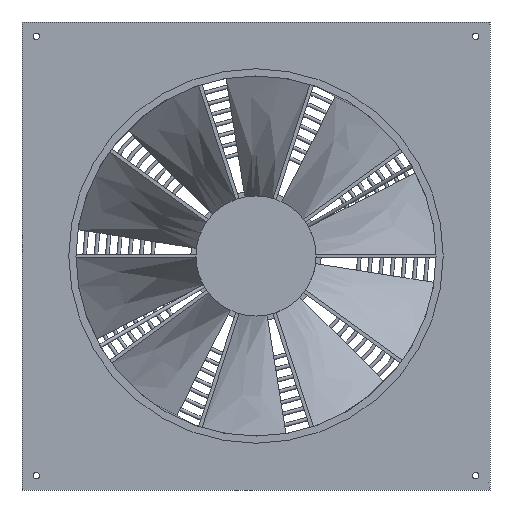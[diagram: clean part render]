
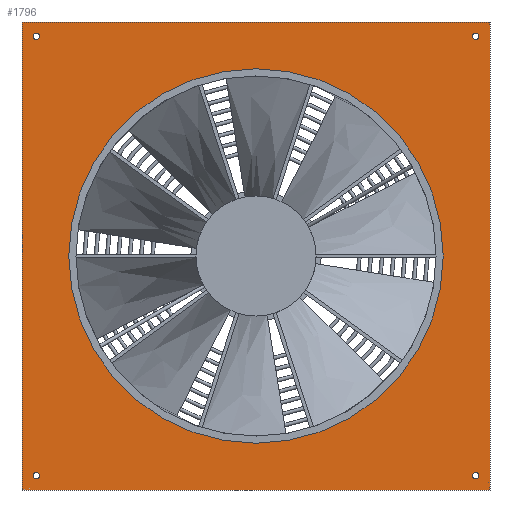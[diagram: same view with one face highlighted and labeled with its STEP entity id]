
A CAD part, front view. The second image highlights one B-rep face of the part: STEP entity #1796.
In plain terms, the highlighted planar face has unit normal (0, -1, 0).
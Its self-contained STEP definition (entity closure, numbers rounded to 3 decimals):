
#130=LINE('',#4186,#218);
#132=LINE('',#4193,#220);
#134=LINE('',#4199,#222);
#135=LINE('',#4201,#223);
#218=VECTOR('',#2268,10.);
#220=VECTOR('',#2276,10.);
#222=VECTOR('',#2282,10.);
#223=VECTOR('',#2285,10.);
#284=PLANE('',#1958);
#334=FACE_BOUND('',#658,.T.);
#335=FACE_BOUND('',#659,.T.);
#336=FACE_BOUND('',#660,.T.);
#337=FACE_BOUND('',#661,.T.);
#338=FACE_BOUND('',#662,.T.);
#408=CIRCLE('',#1947,4.5);
#409=CIRCLE('',#1949,4.5);
#410=CIRCLE('',#1951,4.5);
#411=CIRCLE('',#1953,4.5);
#413=CIRCLE('',#1956,262.);
#515=FACE_OUTER_BOUND('',#657,.T.);
#657=EDGE_LOOP('',(#1651,#1652,#1653,#1654));
#658=EDGE_LOOP('',(#1655));
#659=EDGE_LOOP('',(#1656));
#660=EDGE_LOOP('',(#1657));
#661=EDGE_LOOP('',(#1658));
#662=EDGE_LOOP('',(#1659));
#877=VERTEX_POINT('',#4183);
#878=VERTEX_POINT('',#4185);
#880=VERTEX_POINT('',#4191);
#882=VERTEX_POINT('',#4197);
#893=VERTEX_POINT('',#4335);
#894=VERTEX_POINT('',#4338);
#895=VERTEX_POINT('',#4341);
#896=VERTEX_POINT('',#4344);
#898=VERTEX_POINT('',#4349);
#1105=EDGE_CURVE('',#878,#877,#130,.T.);
#1109=EDGE_CURVE('',#877,#880,#132,.T.);
#1112=EDGE_CURVE('',#880,#882,#134,.T.);
#1113=EDGE_CURVE('',#882,#878,#135,.T.);
#1140=EDGE_CURVE('',#893,#893,#408,.T.);
#1141=EDGE_CURVE('',#894,#894,#409,.T.);
#1142=EDGE_CURVE('',#895,#895,#410,.T.);
#1143=EDGE_CURVE('',#896,#896,#411,.T.);
#1145=EDGE_CURVE('',#898,#898,#413,.T.);
#1651=ORIENTED_EDGE('',*,*,#1105,.T.);
#1652=ORIENTED_EDGE('',*,*,#1109,.T.);
#1653=ORIENTED_EDGE('',*,*,#1112,.T.);
#1654=ORIENTED_EDGE('',*,*,#1113,.T.);
#1655=ORIENTED_EDGE('',*,*,#1140,.T.);
#1656=ORIENTED_EDGE('',*,*,#1141,.T.);
#1657=ORIENTED_EDGE('',*,*,#1142,.T.);
#1658=ORIENTED_EDGE('',*,*,#1143,.T.);
#1659=ORIENTED_EDGE('',*,*,#1145,.T.);
#1796=ADVANCED_FACE('',(#515,#334,#335,#336,#337,#338),#284,.F.);
#1947=AXIS2_PLACEMENT_3D('',#4336,#2333,#2334);
#1949=AXIS2_PLACEMENT_3D('',#4339,#2337,#2338);
#1951=AXIS2_PLACEMENT_3D('',#4342,#2341,#2342);
#1953=AXIS2_PLACEMENT_3D('',#4345,#2345,#2346);
#1956=AXIS2_PLACEMENT_3D('',#4350,#2351,#2352);
#1958=AXIS2_PLACEMENT_3D('',#4352,#2355,#2356);
#2268=DIRECTION('',(1.,0.,0.));
#2276=DIRECTION('',(0.,0.,1.));
#2282=DIRECTION('',(-1.,0.,0.));
#2285=DIRECTION('',(0.,0.,-1.));
#2333=DIRECTION('center_axis',(0.,1.,0.));
#2334=DIRECTION('ref_axis',(1.,0.,0.));
#2337=DIRECTION('center_axis',(0.,1.,0.));
#2338=DIRECTION('ref_axis',(1.,0.,0.));
#2341=DIRECTION('center_axis',(0.,1.,0.));
#2342=DIRECTION('ref_axis',(1.,0.,0.));
#2345=DIRECTION('center_axis',(0.,1.,0.));
#2346=DIRECTION('ref_axis',(1.,0.,0.));
#2351=DIRECTION('center_axis',(0.,1.,0.));
#2352=DIRECTION('ref_axis',(-1.,0.,0.));
#2355=DIRECTION('center_axis',(0.,1.,0.));
#2356=DIRECTION('ref_axis',(0.,0.,1.));
#4183=CARTESIAN_POINT('',(327.5,0.,-327.5));
#4185=CARTESIAN_POINT('',(-327.5,0.,-327.5));
#4186=CARTESIAN_POINT('',(-327.5,0.,-327.5));
#4191=CARTESIAN_POINT('',(327.5,0.,327.5));
#4193=CARTESIAN_POINT('',(327.5,0.,-327.5));
#4197=CARTESIAN_POINT('',(-327.5,0.,327.5));
#4199=CARTESIAN_POINT('',(327.5,0.,327.5));
#4201=CARTESIAN_POINT('',(-327.5,0.,327.5));
#4335=CARTESIAN_POINT('',(-303.,0.,-307.5));
#4336=CARTESIAN_POINT('Origin',(-307.5,0.,-307.5));
#4338=CARTESIAN_POINT('',(312.,0.,307.5));
#4339=CARTESIAN_POINT('Origin',(307.5,0.,307.5));
#4341=CARTESIAN_POINT('',(312.,0.,-307.5));
#4342=CARTESIAN_POINT('Origin',(307.5,0.,-307.5));
#4344=CARTESIAN_POINT('',(-303.,0.,307.5));
#4345=CARTESIAN_POINT('Origin',(-307.5,0.,307.5));
#4349=CARTESIAN_POINT('',(262.,0.,0.));
#4350=CARTESIAN_POINT('Origin',(0.,0.,0.));
#4352=CARTESIAN_POINT('Origin',(0.,0.,0.));
